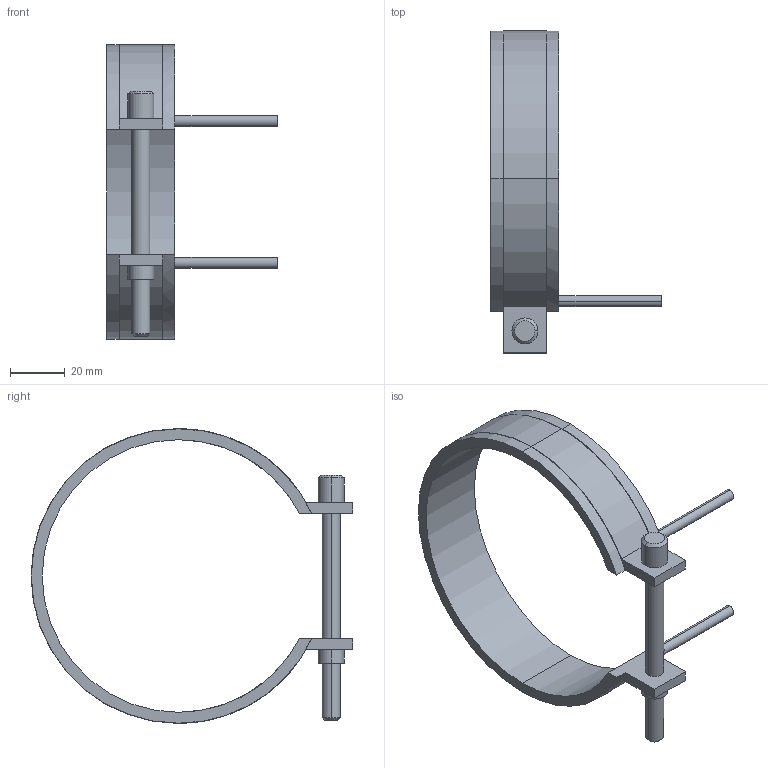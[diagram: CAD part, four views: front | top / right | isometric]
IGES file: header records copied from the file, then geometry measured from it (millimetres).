
Start section: START RECORD GO HERE.
Global section: file name: 14100025.igs; native system: DASSAULT SYSTEMES CATIA V5 R20 - www.3ds.com; preprocessor: CATIA Version 5 Release 20 ; author: Utente; organization: NB04-ASUS; date: 20210403.105641; units: millimetre
Bounding box: 62.5 x 118.1 x 108.2 mm (x, y, z)
Surface area: 20442.5 mm2 (no closed solid volume)
Topology: 0 solids, 0 shells, 45 faces, 232 edges, 232 vertices
Faces by surface type: revolution 28, plane 17
